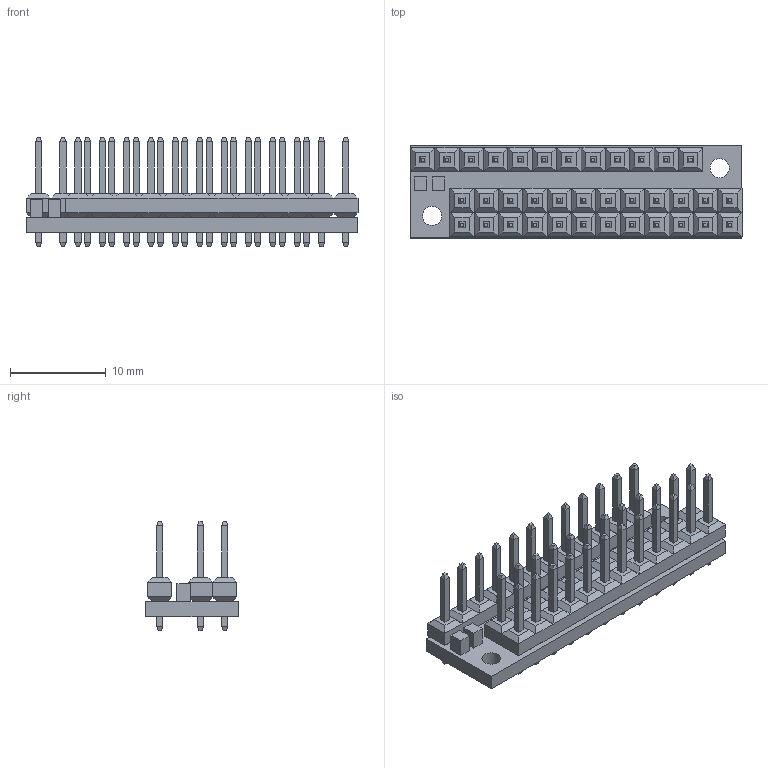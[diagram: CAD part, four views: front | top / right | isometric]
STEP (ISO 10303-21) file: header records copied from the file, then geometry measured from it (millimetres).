
FILE_DESCRIPTION(/* description */ (''),/* implementation_level */ '2;1');
FILE_NAME(/* name */ 'C:/Users/priba/Documents/Temp/Export/mrm-distrib-c.step',/* time_stamp */ '2019-09-09T12:39:23+02:00',/* author */ (''),/* organization */ (''),/* preprocessor_version */ 'ST-DEVELOPER v18',/* originating_system */ 'Autodesk Translation Framework v8.6.0.1094',/* authorisation */ '');
FILE_SCHEMA (('AUTOMOTIVE_DESIGN { 1 0 10303 214 3 1 1 }'));
Length unit declared in the file: millimetre
Products named in the file (5): mrm-distrib-c; PCB Component; Board; 1X12; JUMPER-SMT_2_NO_NO-SILK
Assembly tree (7 placements, depth 3):
  mrm-distrib-c
    PCB Component
      Board
      1X12  x3
      JUMPER-SMT_2_NO_NO-SILK  x2
Bounding box: 34.63 x 9.6 x 11.38 mm (x, y, z)
Volume: 1106 mm3; surface area: 2626.6 mm2
Topology: 6 solids, 6 shells, 1076 faces, 2400 edges, 1408 vertices
Faces by surface type: plane 1038, cylinder 38
Full cylindrical faces by diameter (mm): 1.016 x36, 2 x2
Entity records: 11256 total; most frequent: CARTESIAN_POINT 1818, ORIENTED_EDGE 1776, DIRECTION 1768, EDGE_CURVE 888, LINE 812, VECTOR 812, VERTEX_POINT 528, EDGE_LOOP 490
